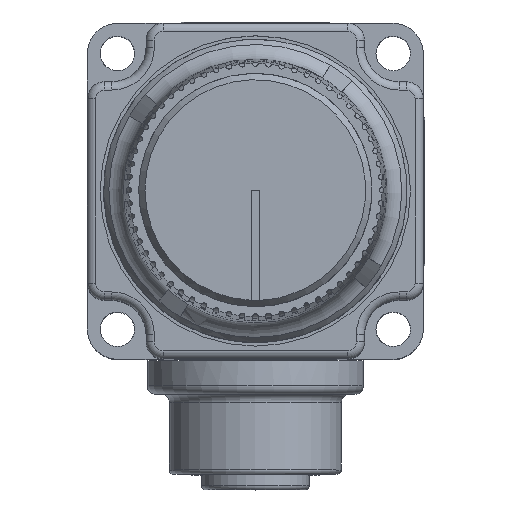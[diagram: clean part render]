
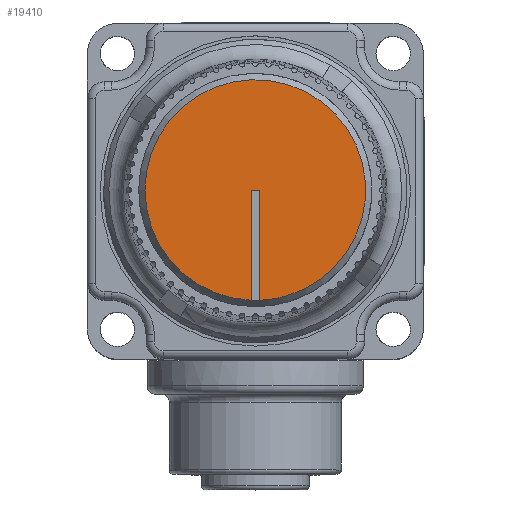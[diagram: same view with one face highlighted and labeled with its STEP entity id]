
A CAD part, top view. The second image highlights one B-rep face of the part: STEP entity #19410.
In plain terms, the highlighted planar face has unit normal (0, 0, 1).
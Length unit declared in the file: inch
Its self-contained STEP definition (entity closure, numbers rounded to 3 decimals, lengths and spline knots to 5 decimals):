
#978=PLANE('',#21049);
#1830=FACE_OUTER_BOUND('',#2961,.T.);
#2961=EDGE_LOOP('',(#15343,#15344,#15345,#15346,#15347));
#3839=CIRCLE('',#21050,0.4);
#3840=CIRCLE('',#21051,0.4);
#5434=LINE('',#33411,#6820);
#5435=LINE('',#33417,#6821);
#5436=LINE('',#33418,#6822);
#6820=VECTOR('',#25271,0.3937);
#6821=VECTOR('',#25276,0.3937);
#6822=VECTOR('',#25277,0.3937);
#8422=VERTEX_POINT('',#33409);
#8423=VERTEX_POINT('',#33410);
#8424=VERTEX_POINT('',#33412);
#8425=VERTEX_POINT('',#33414);
#8426=VERTEX_POINT('',#33416);
#10838=EDGE_CURVE('',#8422,#8423,#5434,.T.);
#10839=EDGE_CURVE('',#8423,#8424,#3839,.T.);
#10840=EDGE_CURVE('',#8424,#8425,#3840,.T.);
#10841=EDGE_CURVE('',#8425,#8426,#5435,.T.);
#10842=EDGE_CURVE('',#8426,#8422,#5436,.T.);
#15343=ORIENTED_EDGE('',*,*,#10838,.T.);
#15344=ORIENTED_EDGE('',*,*,#10839,.T.);
#15345=ORIENTED_EDGE('',*,*,#10840,.T.);
#15346=ORIENTED_EDGE('',*,*,#10841,.T.);
#15347=ORIENTED_EDGE('',*,*,#10842,.T.);
#19410=ADVANCED_FACE('',(#1830),#978,.T.);
#21049=AXIS2_PLACEMENT_3D('',#33408,#25269,#25270);
#21050=AXIS2_PLACEMENT_3D('',#33413,#25272,#25273);
#21051=AXIS2_PLACEMENT_3D('',#33415,#25274,#25275);
#25269=DIRECTION('center_axis',(0.,0.,1.));
#25270=DIRECTION('ref_axis',(1.,0.,0.));
#25271=DIRECTION('',(0.,-1.,0.));
#25272=DIRECTION('center_axis',(0.,0.,
1.));
#25273=DIRECTION('ref_axis',(0.325,0.946,0.));
#25274=DIRECTION('center_axis',(0.,0.,
1.));
#25275=DIRECTION('ref_axis',(0.325,0.946,0.));
#25276=DIRECTION('',(0.,1.,0.));
#25277=DIRECTION('',(1.,0.,0.));
#33408=CARTESIAN_POINT('Origin',(-1.04106,-0.72984,1.82375));
#33409=CARTESIAN_POINT('',(-1.02606,-0.32973,1.82375));
#33410=CARTESIAN_POINT('',(-1.02606,-0.72945,1.82375));
#33411=CARTESIAN_POINT('',(-1.02606,-0.32973,1.82375));
#33412=CARTESIAN_POINT('',(-0.92688,-0.71309,1.82375));
#33413=CARTESIAN_POINT('Origin',(-1.04106,-0.32973,1.82375));
#33414=CARTESIAN_POINT('',(-1.05606,-0.72945,1.82375));
#33415=CARTESIAN_POINT('Origin',(-1.04106,-0.32973,1.82375));
#33416=CARTESIAN_POINT('',(-1.05606,-0.32973,1.82375));
#33417=CARTESIAN_POINT('',(-1.05606,-0.72945,1.82375));
#33418=CARTESIAN_POINT('',(-1.05606,-0.32973,1.82375));
